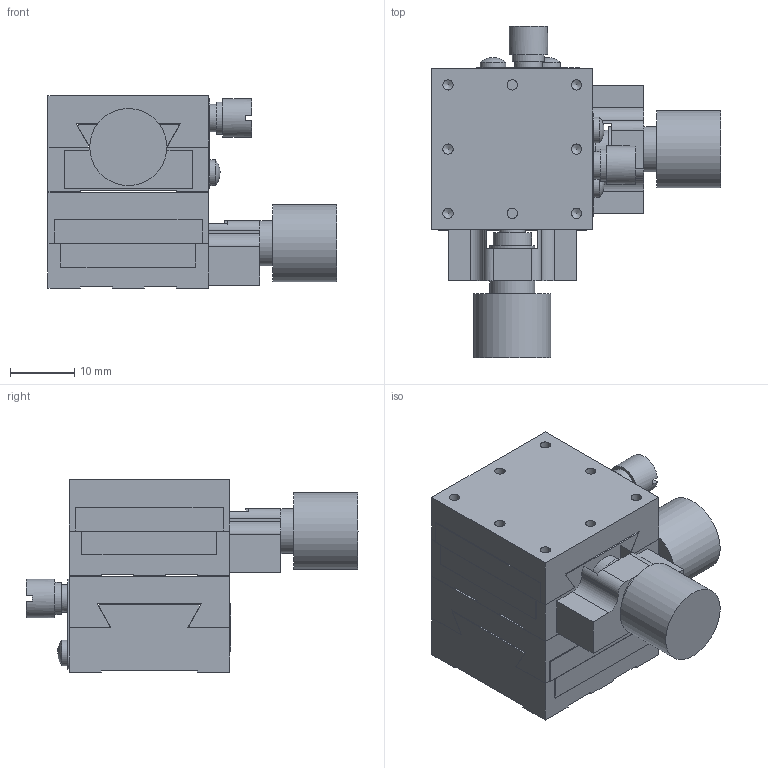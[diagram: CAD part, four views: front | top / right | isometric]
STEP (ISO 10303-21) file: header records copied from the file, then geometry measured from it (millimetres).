
FILE_DESCRIPTION( ( 'STEP AP203' ), '1' );
FILE_NAME( 'C:/3D-Trans/3D_B08-2+090717.step', '2009-07-17T02:53:37', ( ' ' ), ( ' ' ), 'XStep 1.0', ' ', ' ' );
FILE_SCHEMA( ( 'CONFIG_CONTROL_DESIGN' ) );
Length unit declared in the file: millimetre
Products named in the file (4): 1; 2; 3; 4
Bounding box: 45.15 x 51.7 x 30 mm (x, y, z)
Volume: 20622.4 mm3; surface area: 15052 mm2
Topology: 4 solids, 8 shells, 336 faces, 890 edges, 592 vertices
Faces by surface type: plane 198, cylinder 118, cone 16, sphere 4
Full cylindrical faces by diameter (mm): 1.6 x36, 2 x2, 2.2 x2, 2.5 x8, 3 x8, 3.2 x4, 4 x6, 4.2 x8, 4.3 x2, 4.5 x4, 5 x2, 6 x4, 7 x6, 12 x2
Entity records: 9916 total; most frequent: CARTESIAN_POINT 1996, DIRECTION 1600, ORIENTED_EDGE 1400, EDGE_CURVE 700, AXIS2_PLACEMENT_3D 568, EDGE_LOOP 532, VERTEX_POINT 532, LINE 464
